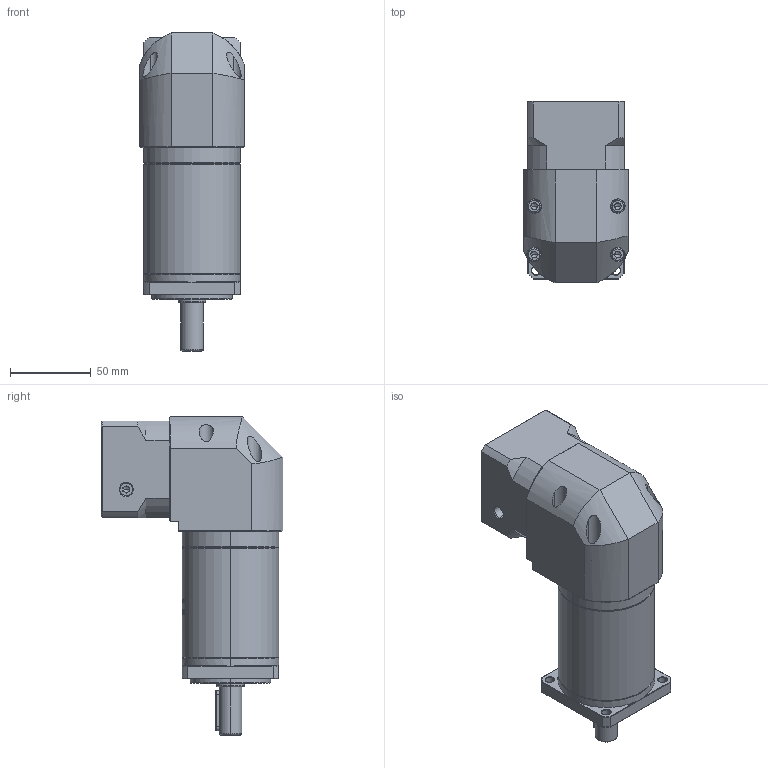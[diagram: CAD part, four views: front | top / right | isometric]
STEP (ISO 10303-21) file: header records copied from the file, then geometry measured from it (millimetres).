
FILE_DESCRIPTION (( 'STEP AP214' ), '1' );
FILE_NAME ('ZFR060-D14-L3-P2-8-30-46-M4.step', '2023-08-17T03:33:03', ( '' ), ( '' ), 'SwSTEP 2.0', 'SolidWorks 2016', '' );
FILE_SCHEMA (( 'AUTOMOTIVE_DESIGN' ));
Length unit declared in the file: millimetre
Products named in the file (1): ZFR060-D14-L3-P2-8-30-46-M4
Bounding box: 65 x 112.7 x 197.5 mm (x, y, z)
Volume: 643301.7 mm3; surface area: 86690.6 mm2
Topology: 5 solids, 6 shells, 1966 faces, 5289 edges, 3425 vertices
Faces by surface type: plane 845, bspline 418, cylinder 391, cone 286, torus 26
Entity records: 124115 total; most frequent: CARTESIAN_POINT 57853, ORIENTED_EDGE 10550, DIRECTION 7646, EDGE_CURVE 5275, VERTEX_POINT 3425, VECTOR 2592, LINE 2592, AXIS2_PLACEMENT_3D 2527
